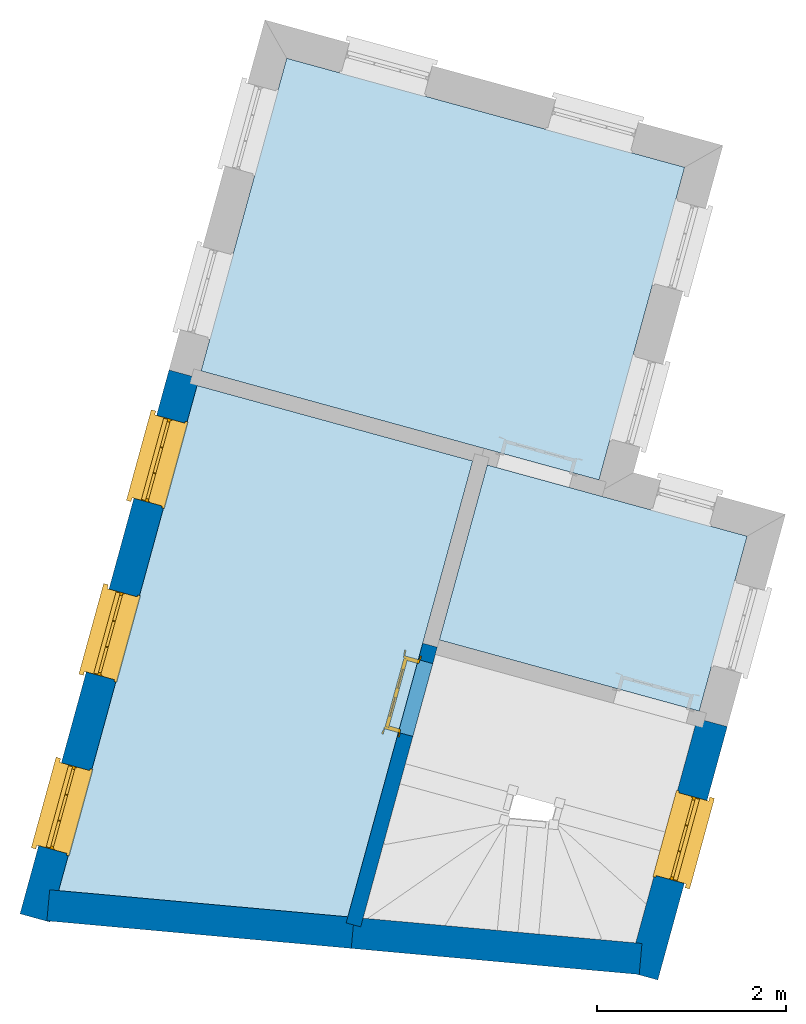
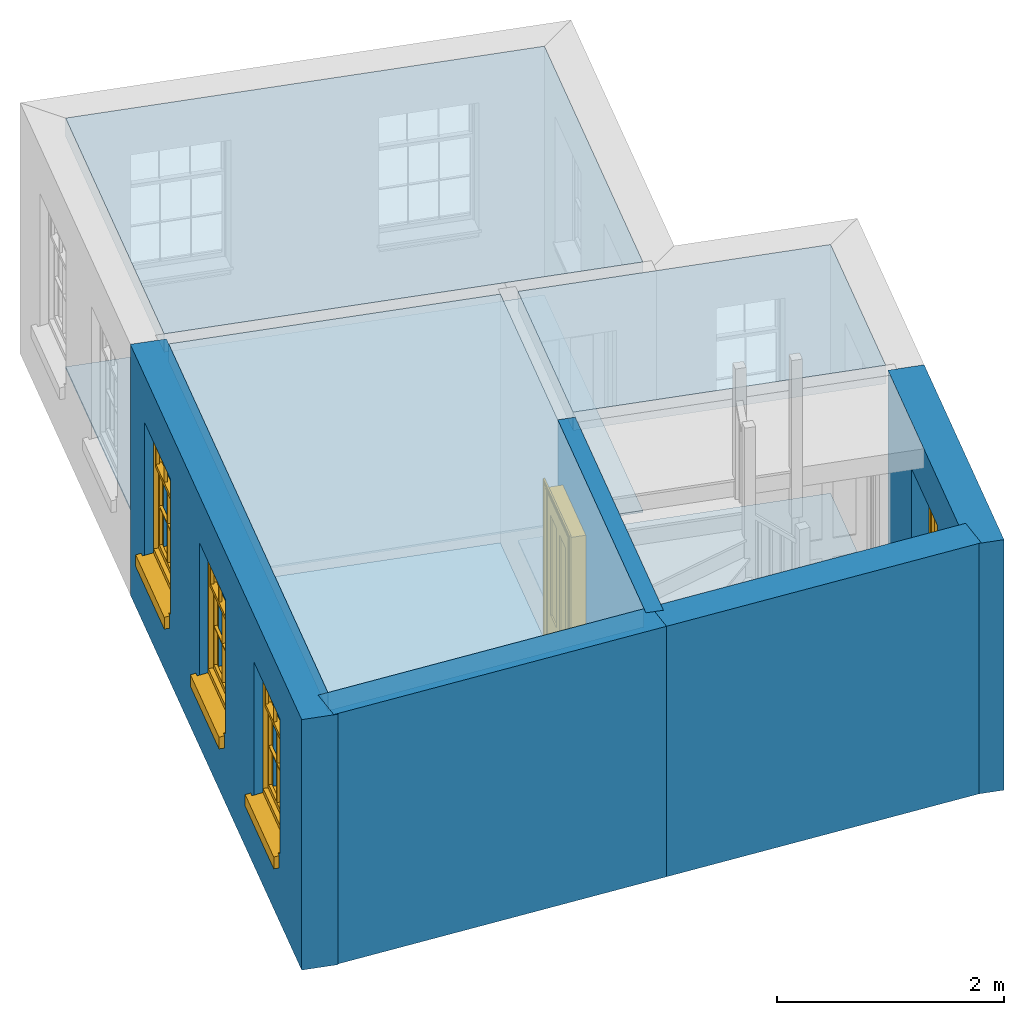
# One storey, part 1 of 4: 6 slabs, 5 walls, 4 windows, 1 door, 5 openings.
"""IFC4 building model written with IfcOpenShell, lengths in metres."""

from ifc_helpers import new_model, si_unit, frame, origin, origin_with_axes, place, context, subcontext, project, spatial, polyline, outline, extrude, faceted_brep, source, transform, mapped, material, layer, layer_set, layer_usage, type_object, type_shapes, element, fill, save


model = new_model("IFC4")

# Units and contexts
model_context = context("Model", 3, world=origin_with_axes())
body_context = subcontext(model_context, "Body", "Model", "MODEL_VIEW")
ifc_project = project(units=[si_unit("PLANEANGLEUNIT", "RADIAN"), si_unit("MASSUNIT", "GRAM", prefix="KILO"), si_unit("FORCEUNIT", "NEWTON", prefix="KILO"), si_unit("LENGTHUNIT", "METRE"), si_unit("AREAUNIT", "SQUARE_METRE"), si_unit("VOLUMEUNIT", "CUBIC_METRE")], contexts=[model_context, model_context])

# Sites, building, storey
site_1_placement = place(None, origin_with_axes())
site_1 = spatial("IfcSite", under=ifc_project, at=site_1_placement, Name="Tamar")
site_2_placement = place(site_1_placement, origin_with_axes())
site_2 = spatial("IfcSite", under=site_1, at=site_2_placement, Name="Site plot-28", CompositionType="ELEMENT")
building_placement = place(None, origin_with_axes())
building = spatial("IfcBuilding", under=site_2, at=building_placement, Name="Building plot-28", CompositionType="ELEMENT")
storey_placement = place(None, frame((0.0, 0.0, 27.15), z_axis=(0.0, 0.0, 1.0), x_axis=(1.0, 0.0, 0.0)))
storey = spatial("IfcBuildingStorey", under=building, at=storey_placement, Name="plot-28 1", CompositionType="ELEMENT", Elevation=27.15)

# Slabs
slab_1_placement = place(storey_placement, frame((259.189981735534, 259.749416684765, 2.5)))
element("IfcSlab", 1, at=slab_1_placement, inside=storey, Name="My Slab", ObjectType="Slab", PredefinedType="FLOOR", context=body_context, shape_type="SweptSolid", body=[
    extrude(outline(polyline([(0.0, 0.0), (3.06223774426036, -0.277500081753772), (4.38500341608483, 4.55019858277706), (1.46588023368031, 5.35002396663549), (0.0, 0.0)])), origin_with_axes(), (0.0, 0.0, 1.0), 0.2),
])
slab_2_placement = place(storey_placement, frame((259.189981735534, 259.749416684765, 0.0)))
element("IfcSlab", 2, at=slab_2_placement, inside=storey, Name="My Slab", ObjectType="Slab", PredefinedType="FLOOR", context=body_context, shape_type="SweptSolid", body=[
    extrude(outline(polyline([(0.0, 0.0), (3.06223774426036, -0.277500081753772), (4.38500341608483, 4.55019858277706), (1.46588023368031, 5.35002396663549), (0.0, 0.0)])), origin_with_axes(), (0.0, 0.0, 1.0), 0.02),
])
slab_3_placement = place(storey_placement, frame((265.974160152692, 261.650358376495, 2.5)))
element("IfcSlab", 3, at=slab_3_placement, inside=storey, Name="My Slab", ObjectType="Slab", PredefinedType="FLOOR", context=body_context, shape_type="SweptSolid", body=[
    extrude(outline(polyline([(0.0, 0.0), (0.507657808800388, 1.85279900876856), (-2.24486255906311, 2.60697604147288), (-2.75252036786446, 0.754177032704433), (0.0, 0.0)])), origin_with_axes(), (0.0, 0.0, 1.0), 0.2),
])
slab_4_placement = place(storey_placement, frame((265.974160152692, 261.650358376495, 0.0)))
element("IfcSlab", 4, at=slab_4_placement, inside=storey, Name="My Slab", ObjectType="Slab", PredefinedType="FLOOR", context=body_context, shape_type="SweptSolid", body=[
    extrude(outline(polyline([(0.0, 0.0), (0.507657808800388, 1.85279900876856), (-2.24486255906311, 2.60697604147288), (-2.75252036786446, 0.754177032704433), (0.0, 0.0)])), origin_with_axes(), (0.0, 0.0, 1.0), 0.02),
])
slab_5_placement = place(storey_placement, frame((264.912556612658, 264.099024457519, 2.5)))
element("IfcSlab", 5, at=slab_5_placement, inside=storey, Name="My Slab", ObjectType="Slab", PredefinedType="FLOOR", context=body_context, shape_type="SweptSolid", body=[
    extrude(outline(polyline([(0.0, 0.0), (0.907259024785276, 3.31122380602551), (-3.30715476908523, 4.46595244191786), (-4.21441379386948, 1.15472863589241), (0.0, 0.0)])), origin_with_axes(), (0.0, 0.0, 1.0), 0.2),
])
slab_6_placement = place(storey_placement, frame((264.912556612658, 264.099024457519, 0.0)))
element("IfcSlab", 6, at=slab_6_placement, inside=storey, Name="My Slab", ObjectType="Slab", PredefinedType="FLOOR", context=body_context, shape_type="SweptSolid", body=[
    extrude(outline(polyline([(0.0, 0.0), (0.907259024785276, 3.31122380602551), (-3.30715476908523, 4.46595244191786), (-4.21441379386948, 1.15472863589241), (0.0, 0.0)])), origin_with_axes(), (0.0, 0.0, 1.0), 0.02),
])

# Wall, opening, window
ifc_material_1 = material(Name="Masonry")
ifc_layer_1 = layer(ifc_material_1, 0.33, ventilated=False)
ifc_layer_set_1 = layer_set([ifc_layer_1], Name="exterior_0.08_0.25")
ifc_layer_usage_1 = layer_usage(ifc_layer_set_1, "AXIS2", "POSITIVE", -0.25)
wall_type_1 = type_object("IfcWallType", Name="exterior_0.08_0.25", PredefinedType="SOLIDWALL", material=ifc_layer_set_1)
wall_1_placement = place(storey_placement, frame((265.361027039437, 259.109868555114, 0.0), z_axis=(0.0, 0.0, 1.0), x_axis=(0.264255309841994, 0.964452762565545, 0.0)))
wall_1 = element("IfcWall", 7, at=wall_1_placement, inside=storey, type_object=wall_type_1, material=ifc_layer_usage_1, Name="exterior", context=body_context, shape_type="SweptSolid", body=[
    extrude(outline(polyline([(-0.250000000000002, 0.0799999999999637), (-0.24999999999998, -0.250000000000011), (2.53220610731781, -0.249999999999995), (2.53220610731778, 0.0799999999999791), (-0.250000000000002, 0.0799999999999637)])), origin_with_axes(), (0.0, 0.0, 1.0), 2.7),
])
opening_1_placement = place(wall_1_placement, frame((0.811103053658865, 0.0, 0.75)))
opening_1 = element("IfcOpeningElement", 8, at=opening_1_placement, cuts=wall_1, Name="My Opening", ObjectType="Opening", context=body_context, shape_type="SweptSolid", body=[
    extrude(outline(polyline([(0.0, -0.270000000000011), (0.910000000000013, -0.269999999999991), (0.910000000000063, 1.09999999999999), (4.91828799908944e-14, 1.09999999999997), (0.0, -0.270000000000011)])), origin_with_axes(), (0.0, 0.0, 1.0), 1.445),
])
window_type = type_object("IfcWindowType", Name="sash_shorter", PartitioningType="DOUBLE_PANEL_HORIZONTAL", PredefinedType="NOTDEFINED")
shared_shape_1 = source(origin(), body_context, "Body", "Brep", [
    faceted_brep([(0.876875, 0.145, 0.999097), (0.876875, 0.145, 1.411875), (0.9, 0.145, 1.435), (0.033125, 0.145, 1.411875), (0.033125, 0.145, 0.999097), (0.01, 0.145, 1.435), (0.033125, 0.115, 1.411875), (0.01, 0.115, 1.435), (0.033125, 0.115, 0.999097), (0.876875, 0.115, 1.411875), (0.876875, 0.115, 0.999097), (0.9, 0.115, 1.435), (0.033125, 0.145, 0.960972), (0.01, 0.145, 0.960972), (0.033125, 0.145, 0.548195), (0.876875, 0.145, 0.960972), (0.876875, 0.145, 0.548195), (0.9, 0.145, 0.960972), (0.876875, 0.145, 0.538195), (0.876875, 0.145, 0.125417), (0.9, 0.145, 0.077167), (0.033125, 0.145, 0.125417), (0.033125, 0.145, 0.538195), (0.01, 0.145, 0.077167), (0.9, 0.115, 0.960972), (0.01, 0.115, 0.960972), (-0.0425, 0.0, 0.01), (-0.0425, -0.05, 0.001667), (0.0, 0.0, 0.01), (0.9525, 0.0, 0.01), (0.91, 0.0, 0.01), (0.9525, -0.05, 0.001667), (-0.02, 0.33, 0.077167), (0.0, 0.33, 0.077167), (-0.02, 0.36, 0.077167), (0.0, 0.19, 0.077167), (0.01, 0.19, 0.077167), (0.91, 0.19, 0.077167), (0.91, 0.33, 0.077167), (0.9, 0.19, 0.077167), (0.93, 0.33, 0.077167), (0.93, 0.36, 0.077167), (0.01, 0.145, 0.999097), (0.01, 0.175, 0.999097), (0.9, 0.145, 0.999097), (0.9, 0.175, 0.999097), (0.876875, 0.175, 0.125417), (0.876875, 0.175, 0.538195), (0.9, 0.175, 0.077167), (0.876875, 0.175, 0.548195), (0.876875, 0.175, 0.960972), (0.033125, 0.175, 0.125417), (0.01, 0.175, 0.077167), (0.033125, 0.175, 0.538195), (0.033125, 0.175, 0.960972), (0.033125, 0.175, 0.548195), (-0.02, 0.33, 0.052167), (-0.02, 0.36, 0.052167), (0.93, 0.36, 0.052167), (0.93, 0.33, 0.052167), (0.91, 0.33, 0.052167), (0.0, 0.33, 0.052167), (0.91, 0.1, 0.026667), (0.0, 0.1, 0.026667), (-0.0425, -0.05, -0.123333), (0.9525, -0.05, -0.123333), (-0.0425, 0.0, -0.123333), (0.9525, 0.0, -0.123333), (0.01, 0.19, 1.435), (0.9, 0.19, 1.435), (0.0, 0.19, 1.445), (0.91, 0.19, 1.445), (0.01, 0.1, 0.077167), (0.9, 0.1, 0.077167), (0.592292, 0.145, 0.125417), (0.592292, 0.175, 0.125417), (0.317708, 0.175, 0.125417), (0.317708, 0.145, 0.125417), (0.592292, 0.145, 0.548195), (0.317708, 0.145, 0.548195), (0.317708, 0.145, 0.538195), (0.592292, 0.145, 0.538195), (0.592292, 0.175, 0.548195), (0.317708, 0.175, 0.548195), (0.602292, 0.175, 0.548195), (0.602292, 0.145, 0.548195), (0.317708, 0.175, 0.538195), (0.307708, 0.175, 0.125417), (0.307708, 0.175, 0.538195), (0.602292, 0.175, 0.538195), (0.602292, 0.175, 0.125417), (0.592292, 0.175, 0.538195), (0.307708, 0.175, 0.548195), (0.317708, 0.175, 0.960972), (0.307708, 0.175, 0.960972), (0.602292, 0.175, 0.960972), (0.592292, 0.175, 0.960972), (0.307708, 0.145, 0.538195), (0.307708, 0.145, 0.125417), (0.307708, 0.145, 0.548195), (0.307708, 0.145, 0.960972), (0.592292, 0.145, 0.960972), (0.317708, 0.145, 0.960972), (0.602292, 0.145, 0.960972), (0.602292, 0.145, 0.538195), (0.602292, 0.145, 0.125417), (0.317708, 0.115, 1.411875), (0.307708, 0.115, 1.411875), (0.307708, 0.115, 0.999097), (0.317708, 0.115, 0.999097), (0.602292, 0.115, 1.411875), (0.592292, 0.115, 1.411875), (0.592292, 0.115, 0.999097), (0.602292, 0.115, 0.999097), (0.317708, 0.145, 0.999097), (0.307708, 0.145, 0.999097), (0.307708, 0.145, 1.411875), (0.317708, 0.145, 1.411875), (0.602292, 0.145, 0.999097), (0.592292, 0.145, 0.999097), (0.592292, 0.145, 1.411875), (0.602292, 0.145, 1.411875), (0.91, 0.1, 1.445), (0.9, 0.1, 1.435), (0.01, 0.1, 1.435), (0.0, 0.1, 1.445), (0.91, 0.0, 0.0), (0.0, 0.0, 0.0), (0.91, 0.33, 0.0), (0.0, 0.33, 0.0)], [[[0, 1, 2]], [[3, 4, 5]], [[6, 7, 8]], [[9, 10, 11]], [[12, 13, 14]], [[15, 16, 17]], [[18, 19, 20]], [[21, 22, 23]], [[24, 15, 17]], [[13, 12, 25]], [[26, 27, 28]], [[29, 30, 31]], [[32, 33, 34]], [[35, 36, 33]], [[37, 38, 39]], [[40, 41, 38]], [[42, 4, 43]], [[44, 45, 0]], [[46, 47, 48]], [[49, 50, 45]], [[51, 52, 53]], [[54, 55, 43]], [[38, 33, 36, 39]], [[41, 34, 33, 38]], [[56, 32, 34, 57]], [[57, 34, 41, 58]], [[58, 41, 40, 59]], [[57, 58, 60, 61]], [[52, 48, 39, 36]], [[62, 63, 28, 30]], [[27, 31, 30, 28]], [[27, 64, 65, 31]], [[66, 67, 65, 64]], [[2, 5, 68, 69]], [[68, 70, 71, 69]], [[20, 23, 72, 73]], [[73, 72, 63, 62]], [[74, 75, 76, 77]], [[78, 79, 80, 81]], [[78, 82, 83, 79]], [[16, 49, 84, 85]], [[86, 76, 87, 88]], [[89, 90, 75, 91]], [[92, 88, 53, 55]], [[82, 91, 86, 83]], [[93, 83, 92, 94]], [[95, 84, 82, 96]], [[89, 84, 49, 47]], [[97, 88, 87, 98]], [[22, 53, 88, 97]], [[81, 91, 75, 74]], [[80, 86, 91, 81]], [[77, 76, 86, 80]], [[99, 92, 55, 14]], [[100, 94, 92, 99]], [[101, 96, 82, 78]], [[79, 83, 93, 102]], [[85, 84, 95, 103]], [[104, 89, 47, 18]], [[105, 90, 89, 104]], [[104, 18, 16, 85]], [[80, 97, 98, 77]], [[104, 81, 74, 105]], [[103, 101, 78, 85]], [[99, 14, 22, 97]], [[102, 100, 99, 79]], [[106, 107, 108, 109]], [[110, 111, 112, 113]], [[114, 115, 116, 117]], [[118, 119, 120, 121]], [[107, 116, 115, 108]], [[111, 120, 119, 112]], [[109, 114, 117, 106]], [[113, 118, 121, 110]], [[85, 78, 81, 104]], [[84, 89, 91, 82]], [[83, 86, 88, 92]], [[79, 99, 97, 80]], [[109, 112, 119, 114]], [[102, 93, 96, 101]], [[106, 117, 120, 111]], [[98, 87, 51, 21]], [[6, 3, 116, 107]], [[110, 121, 1, 9]], [[19, 46, 90, 105]], [[26, 66, 64, 27]], [[29, 31, 65, 67]], [[25, 24, 112, 109]], [[11, 7, 106, 111]], [[75, 48, 52, 76]], [[43, 45, 96, 93]], [[45, 43, 114, 119]], [[5, 2, 120, 117]], [[24, 25, 102, 101]], [[42, 5, 4]], [[2, 44, 0]], [[49, 45, 48, 47]], [[52, 43, 55, 53]], [[14, 13, 23, 22]], [[20, 17, 16, 18]], [[24, 11, 10]], [[25, 8, 7]], [[8, 4, 3, 6]], [[9, 1, 0, 10]], [[15, 50, 49, 16]], [[18, 47, 46, 19]], [[21, 51, 53, 22]], [[14, 55, 54, 12]], [[44, 2, 69, 45]], [[68, 5, 42, 43]], [[36, 35, 70, 68]], [[39, 69, 71, 37]], [[62, 122, 123, 73]], [[63, 72, 124, 125]], [[8, 108, 115, 4]], [[113, 10, 0, 118]], [[94, 100, 12, 54]], [[17, 20, 73, 24]], [[72, 23, 13, 25]], [[52, 36, 68, 43]], [[69, 39, 48, 45]], [[11, 24, 73, 123]], [[7, 124, 72, 25]], [[23, 77, 98]], [[98, 21, 23]], [[105, 74, 20]], [[20, 19, 105]], [[20, 74, 77, 23]], [[113, 112, 24]], [[24, 10, 113]], [[25, 109, 108]], [[108, 8, 25]], [[110, 9, 11]], [[11, 111, 110]], [[7, 6, 107]], [[107, 106, 7]], [[5, 117, 116]], [[116, 3, 5]], [[121, 120, 2]], [[2, 1, 121]], [[11, 123, 124, 7]], [[122, 125, 124, 123]], [[43, 93, 94]], [[94, 54, 43]], [[96, 45, 95]], [[50, 95, 45]], [[15, 103, 95, 50]], [[48, 75, 90]], [[90, 46, 48]], [[87, 76, 52]], [[52, 51, 87]], [[103, 15, 24]], [[24, 101, 103]], [[100, 102, 25]], [[25, 12, 100]], [[115, 114, 43]], [[43, 4, 115]], [[118, 0, 45]], [[45, 119, 118]], [[71, 70, 125, 122]], [[70, 35, 63, 125]], [[122, 62, 37, 71]], [[126, 67, 66, 127]], [[60, 58, 59]], [[38, 60, 59, 40]], [[61, 56, 57]], [[32, 56, 61, 33]], [[61, 60, 128, 129]], [[62, 60, 38, 37]], [[126, 128, 60, 62]], [[33, 61, 63, 35]], [[61, 129, 127, 63]], [[128, 126, 127, 129]], [[28, 127, 66, 26]], [[63, 127, 28]], [[29, 67, 126, 30]], [[30, 126, 62]]]),
])
type_shapes(window_type, [shared_shape_1])
window_1_placement = place(storey_placement, frame((265.835767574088, 259.820790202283, 0.75), z_axis=(0.0, 0.0, 1.0), x_axis=(0.240472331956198, 0.877652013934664, 0.0)))
window_1 = element("IfcWindow", 9, at=window_1_placement, inside=storey, type_object=window_type, Name="circulation outside window", OverallHeight=1.445, OverallWidth=0.91, context=body_context, shape_type="MappedRepresentation", body=[
    mapped(shared_shape_1, transform((0.0, 0.0, 0.0), scale=1.0)),
])
fill(opening_1, window_1)

# Wall, openings, windows
wall_2_placement = place(storey_placement, frame((260.599846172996, 265.197737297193, 0.0), z_axis=(0.0, 0.0, 1.0), x_axis=(-0.264255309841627, -0.964452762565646, 0.0)))
wall_2 = element("IfcWall", 10, at=wall_2_placement, inside=storey, type_object=wall_type_1, material=ifc_layer_usage_1, Name="exterior", context=body_context, shape_type="SweptSolid", body=[
    extrude(outline(polyline([(8.65392561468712e-15, 0.0800000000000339), (4.50903628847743e-14, -0.25000000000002), (5.97279719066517, -0.250000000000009), (5.97279719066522, 0.0799999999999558), (8.65392561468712e-15, 0.0800000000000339)])), origin_with_axes(), (0.0, 0.0, 1.0), 2.7),
])
opening_2_placement = place(wall_2_placement, frame((0.498799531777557, 0.0, 0.75)))
opening_2 = element("IfcOpeningElement", 11, at=opening_2_placement, cuts=wall_2, Name="My Opening", ObjectType="Opening", context=body_context, shape_type="SweptSolid", body=[
    extrude(outline(polyline([(0.0, -0.270000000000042), (0.909999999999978, -0.270000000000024), (0.909999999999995, 1.10000000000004), (1.62092561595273e-14, 1.10000000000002), (0.0, -0.270000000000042)])), origin_with_axes(), (0.0, 0.0, 1.0), 1.445),
])
opening_3_placement = place(wall_2_placement, frame((2.40639859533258, 0.0, 0.75)))
opening_3 = element("IfcOpeningElement", 12, at=opening_3_placement, cuts=wall_2, Name="My Opening", ObjectType="Opening", context=body_context, shape_type="SweptSolid", body=[
    extrude(outline(polyline([(0.0, -0.270000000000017), (0.910000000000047, -0.270000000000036), (0.910000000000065, 1.10000000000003), (1.59872115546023e-14, 1.10000000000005), (0.0, -0.270000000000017)])), origin_with_axes(), (0.0, 0.0, 1.0), 1.445),
])
opening_4_placement = place(wall_2_placement, frame((4.31399765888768, 0.0, 0.75)))
opening_4 = element("IfcOpeningElement", 13, at=opening_4_placement, cuts=wall_2, Name="My Opening", ObjectType="Opening", context=body_context, shape_type="SweptSolid", body=[
    extrude(outline(polyline([(0.0, -0.270000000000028), (0.909999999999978, -0.270000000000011), (0.909999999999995, 1.10000000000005), (1.68753899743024e-14, 1.10000000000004), (0.0, -0.270000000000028)])), origin_with_axes(), (0.0, 0.0, 1.0), 1.445),
])
window_2_placement = place(storey_placement, frame((260.207633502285, 264.788017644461, 0.75), z_axis=(0.0, 0.0, 1.0), x_axis=(-0.240472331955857, -0.877652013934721, 0.0)))
window_2 = element("IfcWindow", 14, at=window_2_placement, inside=storey, type_object=window_type, Name="bedroom outside window", OverallHeight=1.445, OverallWidth=0.91, context=body_context, shape_type="MappedRepresentation", body=[
    mapped(shared_shape_1, transform((0.0, 0.0, 0.0), scale=1.0)),
])
fill(opening_2, window_2)
window_3_placement = place(storey_placement, frame((259.703540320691, 262.948228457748, 0.75), z_axis=(0.0, 0.0, 1.0), x_axis=(-0.240472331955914, -0.877652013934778, 0.0)))
window_3 = element("IfcWindow", 15, at=window_3_placement, inside=storey, type_object=window_type, Name="bedroom outside window", OverallHeight=1.445, OverallWidth=0.91, context=body_context, shape_type="MappedRepresentation", body=[
    mapped(shared_shape_1, transform((0.0, 0.0, 0.0), scale=1.0)),
])
fill(opening_3, window_3)
window_4_placement = place(storey_placement, frame((259.199447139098, 261.108439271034, 0.75), z_axis=(0.0, 0.0, 1.0), x_axis=(-0.240472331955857, -0.877652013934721, 0.0)))
window_4 = element("IfcWindow", 16, at=window_4_placement, inside=storey, type_object=window_type, Name="bedroom outside window", OverallHeight=1.445, OverallWidth=0.91, context=body_context, shape_type="MappedRepresentation", body=[
    mapped(shared_shape_1, transform((0.0, 0.0, 0.0), scale=1.0)),
])
fill(opening_4, window_4)

# Walls
ifc_material_2 = material(Name="Masonry")
ifc_layer_2 = layer(ifc_material_2, 0.33, ventilated=False)
ifc_layer_set_2 = layer_set([ifc_layer_2], Name="party_0.08_0.25")
ifc_layer_usage_2 = layer_usage(ifc_layer_set_2, "AXIS2", "POSITIVE", -0.25)
wall_type_2 = type_object("IfcWallType", Name="party_0.08_0.25", PredefinedType="SOLIDWALL", material=ifc_layer_set_2)
wall_3_placement = place(storey_placement, frame((259.087566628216, 259.678369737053, 0.0), z_axis=(0.0, 0.0, 1.0), x_axis=(0.99591912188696, -0.0902502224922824, 0.0)))
element("IfcWall", 17, at=wall_3_placement, inside=storey, type_object=wall_type_2, material=ifc_layer_usage_2, Name="party", context=body_context, shape_type="SweptSolid", body=[
    extrude(outline(polyline([(1.58322380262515e-14, 0.0799999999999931), (-2.42487861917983e-14, -0.250000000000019), (3.23732672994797, -0.250000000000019), (3.23732672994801, 0.0799999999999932), (1.58322380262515e-14, 0.0799999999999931)])), origin_with_axes(), (0.0, 0.0, 1.0), 2.7),
])
wall_4_placement = place(storey_placement, frame((262.311682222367, 259.386200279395, 0.0), z_axis=(0.0, 0.0, 1.0), x_axis=(0.995919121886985, -0.0902502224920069, 0.0)))
element("IfcWall", 18, at=wall_4_placement, inside=storey, type_object=wall_type_2, material=ifc_layer_usage_2, Name="party", context=body_context, shape_type="SweptSolid", body=[
    extrude(outline(polyline([(3.79656442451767e-14, 0.0799999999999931), (-9.35267029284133e-14, -0.250000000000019), (3.06183981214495, -0.250000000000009), (3.06183981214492, 0.079999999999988), (3.79656442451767e-14, 0.0799999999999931)])), origin_with_axes(), (0.0, 0.0, 1.0), 2.7),
])

# Wall, opening, door
ifc_material_3 = material(Name="Masonry")
ifc_layer_3 = layer(ifc_material_3, 0.16, ventilated=False)
ifc_layer_set_3 = layer_set([ifc_layer_3], Name="interior_0.08_0.08")
ifc_layer_usage_3 = layer_usage(ifc_layer_set_3, "AXIS2", "POSITIVE", -0.08)
wall_type_3 = type_object("IfcWallType", Name="interior_0.08_0.08", PredefinedType="SOLIDWALL", material=ifc_layer_set_3)
wall_5_placement = place(storey_placement, frame((262.311682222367, 259.386200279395, 0.0), z_axis=(0.0, 0.0, 1.0), x_axis=(0.264255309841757, 0.96445276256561, 0.0)))
wall_5 = element("IfcWall", 19, at=wall_5_placement, inside=storey, type_object=wall_type_3, material=ifc_layer_usage_3, Name="interior", context=body_context, shape_type="SweptSolid", body=[
    extrude(outline(polyline([(1.2919012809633e-14, 0.0799999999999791), (-1.28914520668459e-14, -0.0799999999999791), (3.07150277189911, -0.0799999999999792), (3.07150277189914, 0.0799999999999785), (1.2919012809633e-14, 0.0799999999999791)])), origin_with_axes(), (0.0, 0.0, 1.0), 2.7),
])
opening_5_placement = place(wall_5_placement, frame((2.09150277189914, 0.0, 0.0199999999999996)))
opening_5 = element("IfcOpeningElement", 20, at=opening_5_placement, cuts=wall_5, Name="My Opening", ObjectType="Opening", context=body_context, shape_type="SweptSolid", body=[
    extrude(outline(polyline([(0.0, -0.100000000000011), (0.799999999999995, -0.100000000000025), (0.799999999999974, 1.10000000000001), (-2.1316282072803e-14, 1.10000000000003), (0.0, -0.100000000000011)])), origin_with_axes(), (0.0, 0.0, 1.0), 2.1),
])
door_type = type_object("IfcDoorType", Name="door_inside", OperationType="SINGLE_SWING_LEFT", PredefinedType="NOTDEFINED")
shared_shape_2 = source(origin(), body_context, "Body", "Brep", [
    faceted_brep([(0.773, 0.33, 1.895), (0.66, 0.33, 1.895), (0.66, 0.33, 2.073), (0.773, 0.33, 2.073), (0.773, 0.33, 0.82), (0.66, 0.33, 0.82), (0.45, 0.33, 1.895), (0.45, 0.33, 2.073), (0.773, 0.33, 0.62), (0.66, 0.33, 0.62), (0.66, 0.315, 0.82), (0.66, 0.315, 1.895), (0.45, 0.315, 1.895), (0.35, 0.33, 1.895), (0.35, 0.33, 2.073), (0.773, 0.33, 0.225), (0.66, 0.33, 0.225), (0.45, 0.33, 0.62), (0.45, 0.33, 0.82), (0.45, 0.315, 0.82), (0.35, 0.33, 0.82), (0.14, 0.33, 2.073), (0.14, 0.33, 1.895), (0.773, 0.33, 0.0), (0.66, 0.33, 0.0), (0.66, 0.315, 0.225), (0.66, 0.315, 0.62), (0.45, 0.315, 0.62), (0.35, 0.33, 0.62), (0.35, 0.315, 0.82), (0.35, 0.315, 1.895), (0.14, 0.315, 1.895), (0.027, 0.33, 2.073), (0.027, 0.33, 1.895), (0.773, 0.292, 0.0), (0.66, 0.292, 0.0), (0.45, 0.33, 0.0), (0.45, 0.33, 0.225), (0.45, 0.315, 0.225), (0.35, 0.33, 0.225), (0.14, 0.33, 0.82), (0.14, 0.33, 0.62), (0.14, 0.315, 0.82), (0.027, 0.33, 0.82), (0.773, 0.292, 0.225), (0.66, 0.292, 0.225), (0.45, 0.292, 0.0), (0.35, 0.33, 0.0), (0.35, 0.315, 0.225), (0.35, 0.315, 0.62), (0.14, 0.315, 0.62), (0.027, 0.33, 0.62), (0.773, 0.292, 0.62), (0.66, 0.292, 0.62), (0.45, 0.292, 0.225), (0.35, 0.292, 0.0), (0.14, 0.33, 0.225), (0.14, 0.33, 0.0), (0.14, 0.315, 0.225), (0.027, 0.33, 0.225), (0.773, 0.292, 0.82), (0.66, 0.292, 0.82), (0.66, 0.307, 0.62), (0.66, 0.307, 0.225), (0.45, 0.307, 0.225), (0.35, 0.292, 0.225), (0.14, 0.292, 0.0), (0.027, 0.33, 0.0), (0.773, 0.292, 1.895), (0.66, 0.292, 1.895), (0.45, 0.292, 0.62), (0.45, 0.292, 0.82), (0.45, 0.307, 0.62), (0.35, 0.292, 0.62), (0.14, 0.292, 0.225), (0.027, 0.292, 0.0), (0.773, 0.292, 2.073), (0.66, 0.292, 2.073), (0.66, 0.307, 1.895), (0.66, 0.307, 0.82), (0.45, 0.307, 0.82), (0.35, 0.292, 0.82), (0.35, 0.307, 0.62), (0.35, 0.307, 0.225), (0.14, 0.307, 0.225), (0.027, 0.292, 0.225), (0.45, 0.292, 1.895), (0.45, 0.292, 2.073), (0.45, 0.307, 1.895), (0.35, 0.292, 1.895), (0.14, 0.292, 0.82), (0.14, 0.292, 0.62), (0.14, 0.307, 0.62), (0.027, 0.292, 0.62), (0.35, 0.292, 2.073), (0.35, 0.307, 1.895), (0.35, 0.307, 0.82), (0.14, 0.307, 0.82), (0.027, 0.292, 0.82), (0.14, 0.292, 2.073), (0.14, 0.292, 1.895), (0.14, 0.307, 1.895), (0.027, 0.292, 1.895), (0.027, 0.292, 2.073), (0.02, 0.335, 0.0), (0.005, 0.34, 0.0), (0.005, 0.34, 2.095), (0.02, 0.335, 2.08), (0.02, 0.33, 0.0), (0.0, 0.335, 0.0), (0.0, 0.335, 2.1), (0.795, 0.34, 2.095), (0.78, 0.335, 2.08), (0.02, 0.33, 2.08), (0.0, 0.33, 0.0), (-0.032, 0.345, 0.0), (-0.032, 0.345, 2.132), (0.8, 0.335, 2.1), (0.795, 0.34, 0.0), (0.78, 0.335, 0.0), (0.78, 0.33, 2.08), (0.04, 0.29, 0.0), (0.025, 0.29, 0.0), (0.025, 0.29, 2.075), (0.04, 0.29, 2.06), (-0.04, 0.34, 0.0), (-0.04, 0.34, 2.14), (0.832, 0.345, 2.132), (0.8, 0.335, 0.0), (0.78, 0.33, 0.0), (0.8, 0.33, 0.0), (0.86, 0.33, 0.0), (0.86, 0.33, 2.16), (0.8, 0.33, 2.1), (-0.06, 0.33, 2.16), (0.0, 0.33, 2.1), (-0.06, 0.33, 0.0), (-0.04, 0.345, 0.0), (-0.04, 0.345, 2.14), (0.84, 0.34, 2.14), (0.832, 0.345, 0.0), (0.84, 0.34, 0.0), (0.86, 0.345, 0.0), (0.86, 0.345, 2.16), (-0.06, 0.345, 2.16), (-0.06, 0.345, 0.0), (0.84, 0.345, 0.0), (0.84, 0.345, 2.14), (-0.025, 0.155, 0.0), (-0.025, 0.16, 0.0), (-0.025, 0.16, 2.125), (-0.025, 0.155, 2.125), (-0.017, 0.155, 0.0), (-0.017, 0.155, 2.117), (0.825, 0.16, 2.125), (0.825, 0.155, 2.125), (0.825, 0.155, 0.0), (0.845, 0.155, 0.0), (-0.045, 0.155, 2.145), (-0.045, 0.155, 0.0), (0.845, 0.155, 2.145), (0.015, 0.165, 0.0), (0.015, 0.165, 2.085), (0.817, 0.155, 2.117), (0.825, 0.16, 0.0), (0.845, 0.17, 0.0), (0.845, 0.17, 2.145), (-0.045, 0.17, 2.145), (-0.045, 0.17, 0.0), (0.02, 0.16, 0.0), (0.02, 0.16, 2.08), (0.785, 0.165, 2.085), (0.817, 0.155, 0.0), (0.8, 0.17, 0.0), (0.8, 0.17, 2.1), (0.0, 0.17, 2.1), (0.0, 0.17, 0.0), (0.035, 0.165, 0.0), (0.035, 0.165, 2.065), (0.78, 0.16, 2.08), (0.785, 0.165, 0.0), (0.775, 0.29, 2.075), (0.76, 0.29, 2.06), (0.035, 0.17, 2.065), (0.035, 0.17, 0.0), (0.765, 0.165, 2.065), (0.78, 0.16, 0.0), (0.765, 0.17, 0.0), (0.765, 0.17, 2.065), (0.765, 0.165, 0.0), (0.04, 0.17, 2.06), (0.04, 0.17, 0.0), (0.76, 0.17, 2.06), (0.76, 0.17, 0.0), (0.76, 0.29, 0.0), (0.775, 0.29, 0.0), (0.025, 0.33, 0.0), (0.025, 0.33, 2.075), (0.775, 0.33, 0.0), (0.775, 0.33, 2.075)], [[[0, 1, 2, 3]], [[1, 0, 4, 5]], [[1, 6, 7, 2]], [[8, 9, 5, 4]], [[1, 5, 10, 11]], [[6, 1, 11, 12]], [[6, 13, 14, 7]], [[15, 16, 9, 8]], [[9, 17, 18, 5]], [[5, 18, 19, 10]], [[10, 19, 12, 11]], [[18, 6, 12, 19]], [[18, 20, 13, 6]], [[21, 14, 13, 22]], [[23, 24, 16, 15]], [[9, 16, 25, 26]], [[17, 9, 26, 27]], [[17, 28, 20, 18]], [[13, 20, 29, 30]], [[22, 13, 30, 31]], [[32, 21, 22, 33]], [[34, 35, 24, 23]], [[24, 36, 37, 16]], [[16, 37, 38, 25]], [[25, 38, 27, 26]], [[37, 17, 27, 38]], [[37, 39, 28, 17]], [[40, 20, 28, 41]], [[20, 40, 42, 29]], [[31, 30, 29, 42]], [[40, 22, 31, 42]], [[33, 22, 40, 43]], [[35, 34, 44, 45]], [[35, 46, 36, 24]], [[36, 47, 39, 37]], [[28, 39, 48, 49]], [[41, 28, 49, 50]], [[43, 40, 41, 51]], [[45, 44, 52, 53]], [[46, 35, 45, 54]], [[46, 55, 47, 36]], [[56, 39, 47, 57]], [[39, 56, 58, 48]], [[50, 49, 48, 58]], [[56, 41, 50, 58]], [[51, 41, 56, 59]], [[53, 52, 60, 61]], [[45, 53, 62, 63]], [[54, 45, 63, 64]], [[55, 46, 54, 65]], [[55, 66, 57, 47]], [[59, 56, 57, 67]], [[61, 60, 68, 69]], [[70, 53, 61, 71]], [[53, 70, 72, 62]], [[72, 64, 63, 62]], [[70, 54, 64, 72]], [[65, 54, 70, 73]], [[65, 74, 66, 55]], [[67, 57, 66, 75]], [[69, 68, 76, 77]], [[61, 69, 78, 79]], [[71, 61, 79, 80]], [[73, 70, 71, 81]], [[65, 73, 82, 83]], [[74, 65, 83, 84]], [[74, 85, 75, 66]], [[86, 69, 77, 87]], [[69, 86, 88, 78]], [[88, 80, 79, 78]], [[86, 71, 80, 88]], [[81, 71, 86, 89]], [[73, 81, 90, 91]], [[73, 91, 92, 82]], [[83, 82, 92, 84]], [[91, 74, 84, 92]], [[91, 93, 85, 74]], [[89, 86, 87, 94]], [[81, 89, 95, 96]], [[90, 81, 96, 97]], [[90, 98, 93, 91]], [[94, 99, 100, 89]], [[89, 100, 101, 95]], [[101, 97, 96, 95]], [[100, 90, 97, 101]], [[100, 102, 98, 90]], [[99, 103, 102, 100]], [[32, 103, 99, 21]], [[102, 103, 32, 33]], [[98, 102, 33, 43]], [[21, 99, 94, 14]], [[94, 87, 7, 14]], [[7, 87, 77, 2]], [[76, 3, 2, 77]], [[43, 51, 93, 98]], [[51, 59, 85, 93]], [[67, 75, 85, 59]], [[34, 23, 15, 44]], [[44, 15, 8, 52]], [[52, 8, 4, 60]], [[0, 68, 60, 4]], [[0, 3, 76, 68]], [[104, 105, 106, 107]], [[104, 108, 109, 105]], [[105, 109, 110, 106]], [[107, 106, 111, 112]], [[107, 113, 108, 104]], [[114, 109, 108]], [[109, 115, 116, 110]], [[106, 110, 117, 111]], [[112, 111, 118, 119]], [[113, 107, 112, 120]], [[121, 122, 123, 124]], [[115, 109, 114, 125]], [[115, 125, 126, 116]], [[110, 116, 127, 117]], [[111, 117, 128, 118]], [[118, 128, 129, 119]], [[120, 112, 119, 129]], [[130, 129, 128]], [[130, 131, 132, 133]], [[133, 132, 134, 135]], [[135, 134, 136, 114]], [[136, 125, 114]], [[125, 137, 138, 126]], [[116, 126, 139, 127]], [[117, 127, 140, 128]], [[141, 130, 128, 140]], [[131, 130, 141]], [[131, 142, 143, 132]], [[132, 143, 144, 134]], [[134, 144, 145, 136]], [[137, 125, 136, 145]], [[143, 142, 146]], [[143, 146, 147]], [[137, 145, 144]], [[143, 147, 138]], [[138, 137, 144]], [[143, 138, 144]], [[126, 138, 147, 139]], [[127, 139, 141, 140]], [[142, 131, 141, 146]], [[139, 147, 146, 141]], [[148, 149, 150, 151]], [[149, 152, 153, 150]], [[151, 150, 154, 155]], [[155, 156, 157]], [[158, 159, 148]], [[158, 148, 151]], [[155, 157, 160]], [[158, 151, 155]], [[155, 160, 158]], [[152, 161, 162, 153]], [[150, 153, 163, 154]], [[155, 154, 164, 156]], [[156, 164, 165, 157]], [[157, 165, 166, 160]], [[160, 166, 167, 158]], [[158, 167, 168, 159]], [[161, 169, 170, 162]], [[153, 162, 171, 163]], [[154, 163, 172, 164]], [[165, 164, 173]], [[165, 173, 174, 166]], [[166, 174, 175, 167]], [[167, 175, 176, 168]], [[169, 177, 178, 170]], [[162, 170, 179, 171]], [[163, 171, 180, 172]], [[172, 180, 173, 164]], [[124, 123, 181, 182]], [[183, 178, 177, 184]], [[170, 178, 185, 179]], [[171, 179, 186, 180]], [[187, 173, 180]], [[185, 188, 187, 189]], [[188, 185, 178, 183]], [[179, 185, 189, 186]], [[189, 187, 180, 186]], [[190, 183, 184, 191]], [[192, 188, 183, 190]], [[191, 184, 122, 121]], [[124, 190, 191, 121]], [[193, 187, 188, 192]], [[182, 192, 190, 124]], [[184, 176, 122]], [[194, 195, 187, 193]], [[192, 182, 194, 193]], [[161, 176, 184]], [[114, 108, 122, 176]], [[173, 187, 195]], [[152, 149, 176, 161]], [[169, 161, 184, 177]], [[196, 122, 108]], [[176, 175, 135, 114]], [[173, 195, 129, 130]], [[176, 149, 168]], [[123, 122, 196, 197]], [[196, 108, 113, 197]], [[175, 174, 133, 135]], [[198, 129, 195]], [[133, 174, 173, 130]], [[159, 168, 149, 148]], [[181, 123, 197, 199]], [[197, 113, 120, 199]], [[199, 120, 129, 198]], [[195, 181, 199, 198]], [[195, 194, 182, 181]]]),
])
type_shapes(door_type, [shared_shape_2])
door_placement = place(storey_placement, frame((262.960818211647, 261.376930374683, 0.0199999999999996), z_axis=(0.0, 0.0, 1.0), x_axis=(0.211404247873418, 0.77156221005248, 0.0)))
door = element("IfcDoor", 21, at=door_placement, inside=storey, type_object=door_type, Name="bedroom inside door", OverallHeight=2.1, OverallWidth=0.8, context=body_context, shape_type="MappedRepresentation", body=[
    mapped(shared_shape_2, transform((0.0, 0.0, 0.0), scale=1.0)),
])
fill(opening_5, door)

save(model, "model.ifc")
